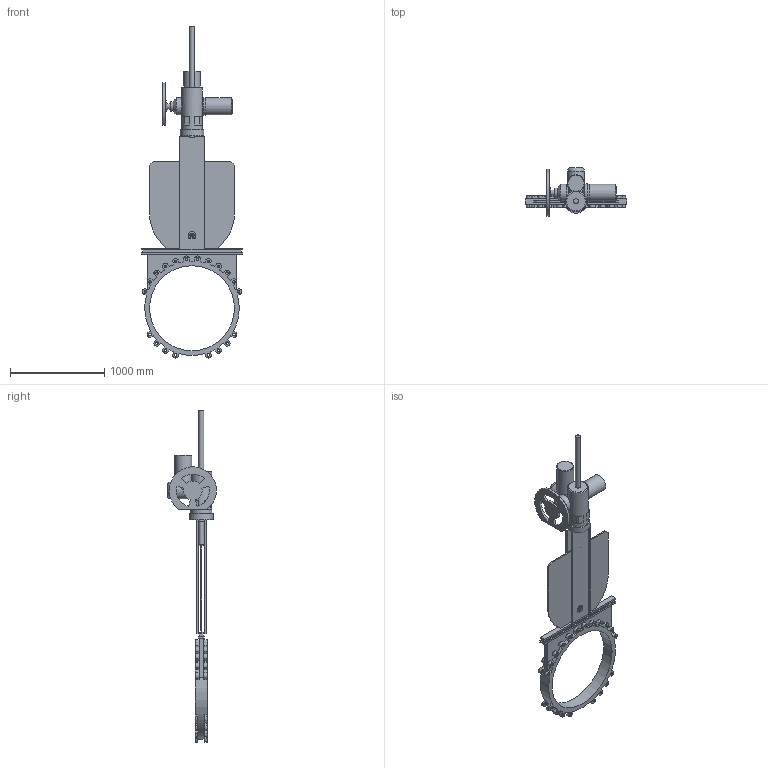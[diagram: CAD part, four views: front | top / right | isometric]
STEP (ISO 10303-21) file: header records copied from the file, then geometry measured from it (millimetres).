
FILE_DESCRIPTION(('STEP AP203'), '1');
FILE_NAME('K51GVA_DN900+MT903.A 80', '', ('UNSPECIFIED'), ('UNSPECIFIED'), 'ASCON STEP Converter 1.6', 'ASCON Math Kernel', '');
FILE_SCHEMA(('CONFIG_CONTROL_DESIGN'));
Length unit declared in the file: millimetre
Bounding box: 1075 x 516.46 x 3519.95 mm (x, y, z)
Volume: 97145753.8 mm3; surface area: 6732560.9 mm2
Topology: 1 solids, 2 shells, 497 faces, 1359 edges, 891 vertices
Faces by surface type: plane 238, cylinder 216, cone 42, torus 1
Full cylindrical faces by diameter (mm): 13.835 x8, 18 x8, 26.211 x40, 52 x2, 60 x1, 80 x1, 100 x1, 140 x2, 180 x4, 187 x1, 191 x1, 220 x1, 250 x1, 900 x1, 1001 x1
Entity records: 20102 total; most frequent: CARTESIAN_POINT 3634, DIRECTION 2720, ORIENTED_EDGE 2422, EDGE_CURVE 1211, AXIS2_PLACEMENT_3D 1034, VERTEX_POINT 858, EDGE_LOOP 677, LINE 652
